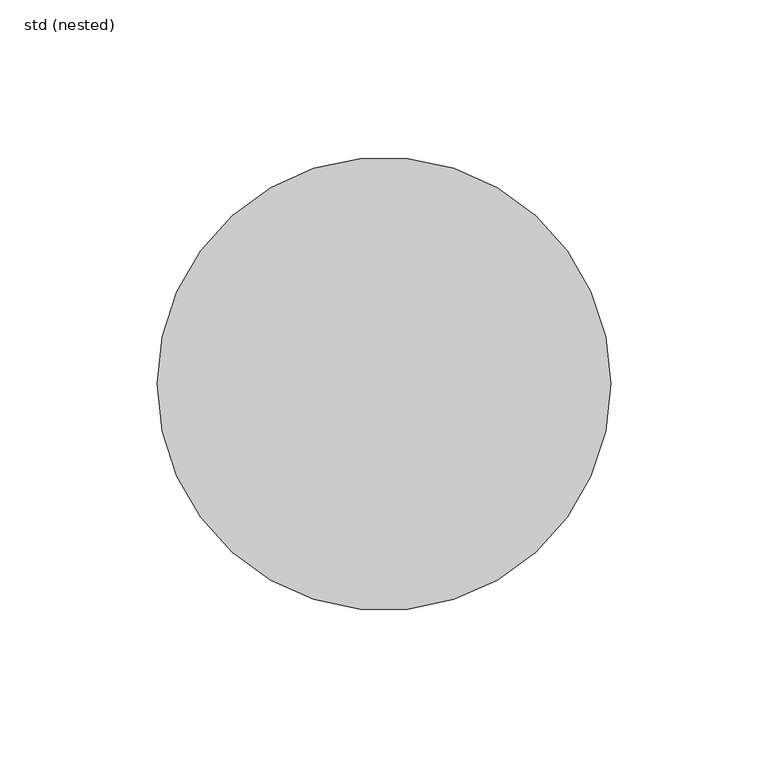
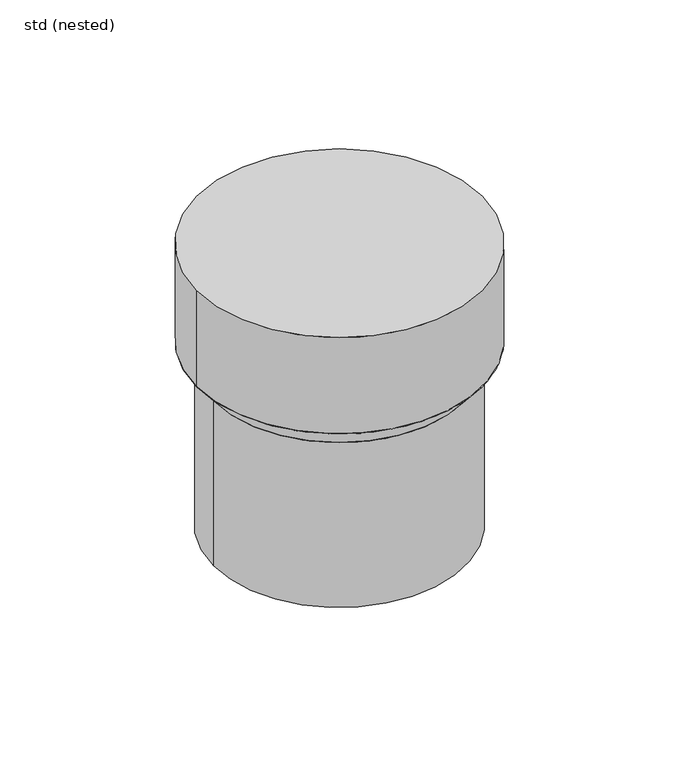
"""IFC4 building model written with IfcOpenShell, lengths in millimetres: sanitary terminal geometry, ZZZ_do_not_use_PF_ST_UN_extension element_ACO : std (nested)."""

from ifc_helpers import new_model, si_unit, point, frame, origin, origin_2d, place, context, project, spatial, polyline, circle_curve, trimmed, segment, composite_curve, outline, extrude, source, transform, mapped, element, save
from ifc_brep_helpers import plane_surface, revolved_surface, advanced_brep


def std_nested_6c8b66a3(model_context):
    return source(origin(), model_context, "Body", "SolidModel", [
        extrude(outline(composite_curve([segment(trimmed(circle_curve(origin_2d(), 63.5), [point((-63.5, 0.0))], [point((63.5, 0.0))], False, "CARTESIAN"), True, "CONTINUOUS"), segment(trimmed(circle_curve(origin_2d(), 63.5), [point((63.5, 0.0))], [point((-63.5, 0.0))], False, "CARTESIAN"), True, "CONTINUOUS")], self_intersect=False)), frame((0.0, 0.0, -150.0), z_axis=(0.0, 0.0, 1.0), x_axis=(1.0, 0.0, 0.0)), (0.0, 0.0, 1.0), 88.0),
        advanced_brep(
        [(-63.5, 0.0, -62.0), (63.5, 0.0, -62.0), (-72.0, 0.0, -51.5), (72.0, 0.0, -51.5)],
        [
            (0, 1, circle_curve(frame((0.0, 0.0, -62.0), z_axis=(0.0, 0.0, -1.0), x_axis=(-1.0, 0.0, 0.0)), 63.5)),
            (1, 0, circle_curve(frame((0.0, 0.0, -62.0), z_axis=(0.0, 0.0, -1.0), x_axis=(1.0, 0.0, 0.0)), 63.5)),
            (2, 3, circle_curve(frame((0.0, 0.0, -51.5), z_axis=(0.0, 0.0, 1.0), x_axis=(1.0, 0.0, 0.0)), 72.0)),
            (3, 2, circle_curve(frame((0.0, 0.0, -51.5), z_axis=(0.0, 0.0, 1.0), x_axis=(-1.0, 0.0, 0.0)), 72.0)),
            (2, 0),
            (1, 3),
        ],
        [
            plane_surface(frame((0.0, 0.0, -62.0), z_axis=(0.0, 0.0, -1.0), x_axis=(0.0, -1.0, 0.0))),
            plane_surface(frame((0.0, 0.0, -51.5), z_axis=(0.0, 0.0, 1.0), x_axis=(0.0, -1.0, 0.0))),
            revolved_surface(polyline([(63.50000000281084, 0.0, -62.0), (72.0, 0.0, -51.5)]), (0.0, 0.0, -140.4411765), (0.0, 0.0, 1.0)),
            revolved_surface(polyline([(-63.50000000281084, 0.0, -62.0), (-72.0, 0.0, -51.5)]), (0.0, 0.0, -140.4411765), (0.0, 0.0, 1.0)),
        ],
        [
            (0, [[1, 2]]),
            (1, [[3, 4]]),
            (2, [[-3, 5, -2, 6]]),
            (3, [[-4, -6, -1, -5]]),
        ],
    ),
        extrude(outline(composite_curve([segment(trimmed(circle_curve(origin_2d(), 72.0), [point((-72.0, 0.0))], [point((72.0, 0.0))], False, "CARTESIAN"), True, "CONTINUOUS"), segment(trimmed(circle_curve(origin_2d(), 72.0), [point((72.0, 0.0))], [point((-72.0, 0.0))], False, "CARTESIAN"), True, "CONTINUOUS")], self_intersect=False)), frame((0.0, 0.0, -51.5), z_axis=(0.0, 0.0, 1.0), x_axis=(1.0, 0.0, 0.0)), (0.0, 0.0, 1.0), 51.5),
    ])


if __name__ == "__main__":
    model = new_model("IFC4")
    model_context = context("Model", 3, world=origin())
    ifc_project = project(units=[si_unit("LENGTHUNIT", "METRE", prefix="MILLI")], contexts=[model_context])
    site = spatial("IfcSite", under=ifc_project)
    building = spatial("IfcBuilding", under=site)
    placement = place(None, origin())
    std_nested_shape = std_nested_6c8b66a3(model_context)
    element("IfcSanitaryTerminal", 1, ObjectType="ZZZ_do_not_use_PF_ST_UN_extension element_ACO : std (nested)", at=placement, inside=building, context=model_context, shape_type="MappedRepresentation", body=[
        mapped(std_nested_shape, transform((0.0, 0.0, 0.0), x_axis=(1.0, 0.0, 0.0), y_axis=(0.0, 1.0, 0.0), z_axis=(0.0, 0.0, 1.0))),
    ])
    save(model, "model.ifc")
